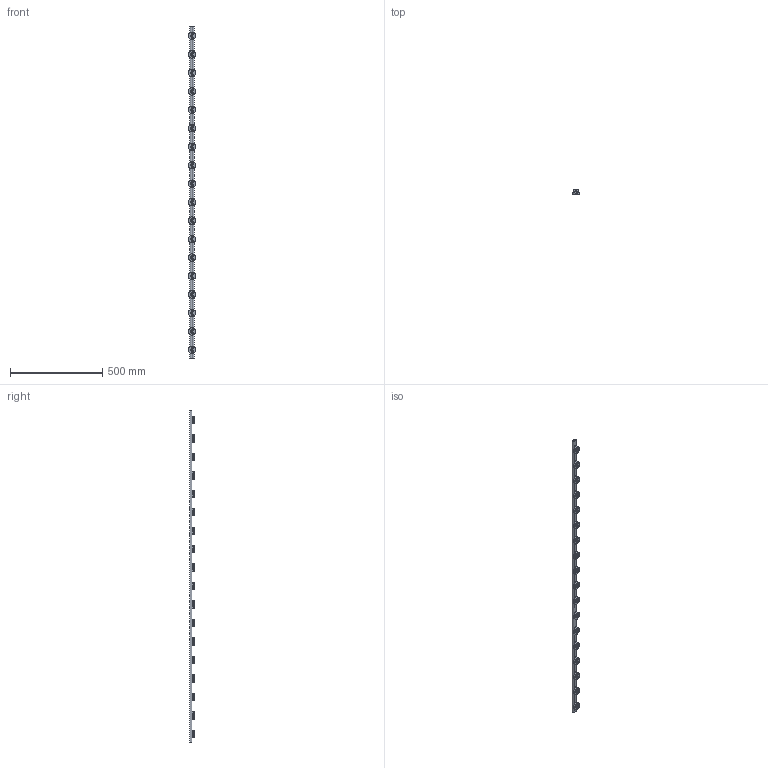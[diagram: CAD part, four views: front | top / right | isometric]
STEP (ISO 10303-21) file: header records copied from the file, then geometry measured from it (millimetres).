
FILE_DESCRIPTION (( 'STEP AP214' ), '1' );
FILE_NAME ('LF 1_-_LF 1 1798 mm lang.step', '2005-06-03T05:56:13', ( ' ' ), ( ' ' ), 'SwSTEP 2.0', 'SolidWorks 2004231', '' );
FILE_SCHEMA (( 'AUTOMOTIVE_DESIGN' ));
Length unit declared in the file: millimetre
Products named in the file (1): LF 1_-_LF 1  1798 mm lang
Bounding box: 40 x 27 x 1798 mm (x, y, z)
Volume: 652537 mm3; surface area: 227435.3 mm2
Topology: 1 solids, 1 shells, 2005 faces, 4965 edges, 2998 vertices
Faces by surface type: plane 940, cylinder 777, cone 180, torus 108
Entity records: 61221 total; most frequent: CARTESIAN_POINT 16895, ORIENTED_EDGE 9570, DIRECTION 8605, EDGE_CURVE 4785, AXIS2_PLACEMENT_3D 3056, VERTEX_POINT 2998, VECTOR 2493, LINE 2493
